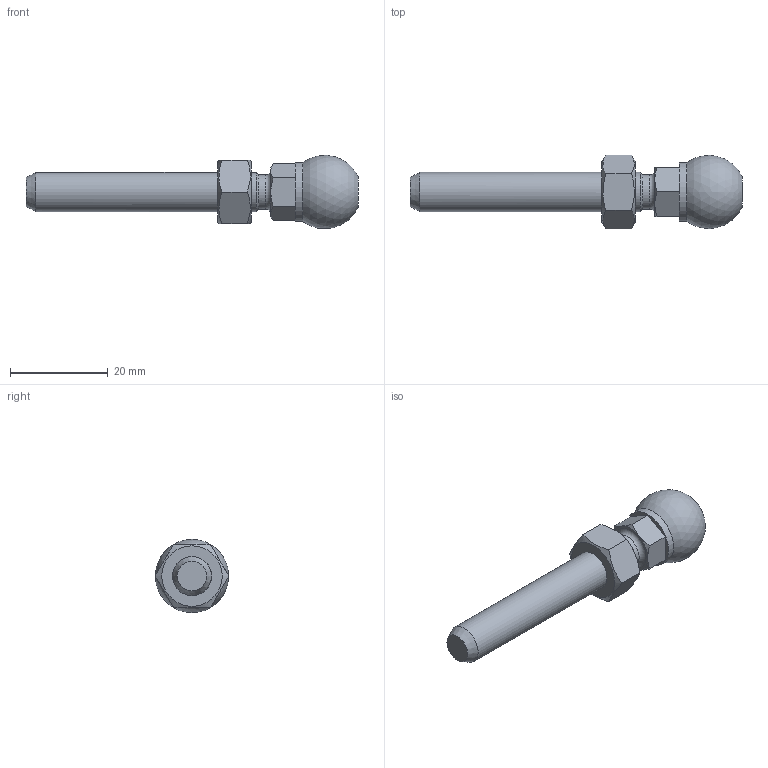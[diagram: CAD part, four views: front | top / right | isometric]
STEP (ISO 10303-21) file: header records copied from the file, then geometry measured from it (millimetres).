
FILE_DESCRIPTION(('STEP AP203'), '1');
FILE_NAME('A00020.108080', '', ('UNSPECIFIED'), ('UNSPECIFIED'), 'C3D Converter', 'C3D Toolkit', '');
FILE_SCHEMA(('CONFIG_CONTROL_DESIGN'));
Length unit declared in the file: millimetre
Products named in the file (2): A00020.108080
Assembly tree (1 placements, depth 2):
  A00020.108080
    (unnamed)
Bounding box: 67.8 x 15.01 x 14.92 mm (x, y, z)
Volume: 5373.3 mm3; surface area: 2764.9 mm2
Topology: 2 solids, 2 shells, 36 faces, 80 edges, 50 vertices
Faces by surface type: plane 18, cone 12, cylinder 4, sphere 1, torus 1
Full cylindrical faces by diameter (mm): 6.647 x1, 7 x1, 8 x1, 12 x1
Entity records: 2053 total; most frequent: CARTESIAN_POINT 1046, DIRECTION 146, ORIENTED_EDGE 136, EDGE_CURVE 68, AXIS2_PLACEMENT_3D 64, EDGE_LOOP 52, VERTEX_POINT 50, FACE_BOUND 37
